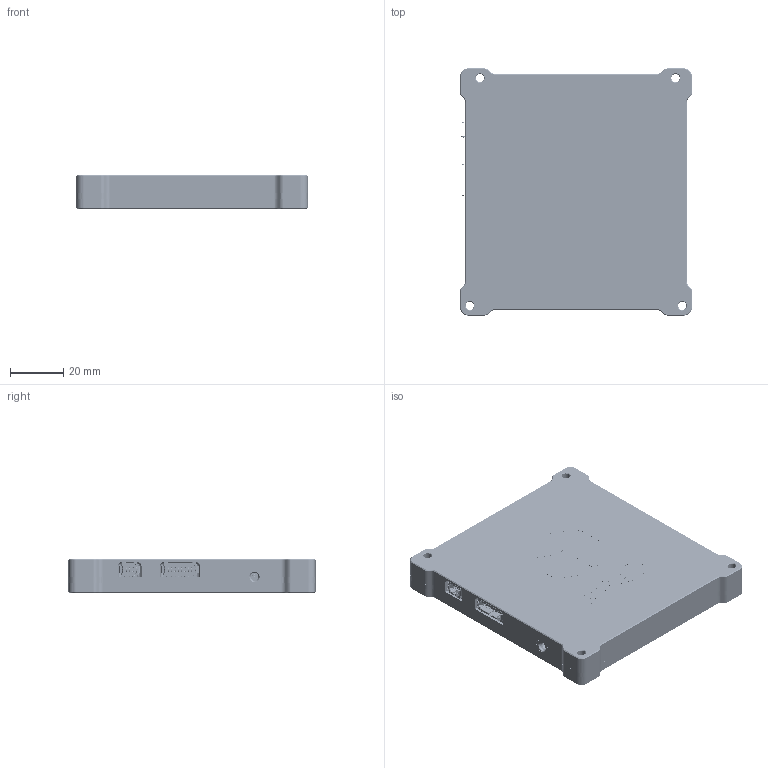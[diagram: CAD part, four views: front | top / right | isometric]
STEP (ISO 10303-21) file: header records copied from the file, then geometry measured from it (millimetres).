
FILE_DESCRIPTION (( 'STEP AP214' ), '1' );
FILE_NAME ('SatlabPolarisv1.0.STEP', '2017-11-23T15:25:19', ( '' ), ( '' ), 'SwSTEP 2.0', 'SolidWorks 2017', '' );
FILE_SCHEMA (( 'AUTOMOTIVE_DESIGN' ));
Length unit declared in the file: millimetre
Products named in the file (24): G125-1060005_BENT_2; M2screw; SatlabPolarisv1.0; Shield_bottom; g125-mh11605l3_asm; G125-430_LATCH; P1; G125-1060005_BENT; G125-431_LATCH; Board20; G125-418_2; G125-1070005_BENT_2; G125-430_LATCH_2; beta-v100; P2; shield_base_3; g125-mh10605l3_asm; RF; G125-3070696; G125-1070005_BENT; G125-431_LATCH_2; G125-3071696; G125-418; SMP-MSFD-PCE-1
Assembly tree (58 placements, depth 5):
  SatlabPolarisv1.0
    shield_base_3
    Shield_bottom
    M2screw  x16
    beta-v100
      Board20
      P2
        g125-mh10605l3_asm
          G125-3070696
          G125-418  x2
          G125-1060005_BENT  x3
          G125-1070005_BENT  x3
          G125-430_LATCH
          G125-431_LATCH
      RF
        SMP-MSFD-PCE-1
      P1
        g125-mh11605l3_asm
          G125-3071696
          G125-418_2  x2
          G125-1060005_BENT_2  x8
          G125-1070005_BENT_2  x8
          G125-430_LATCH_2
          G125-431_LATCH_2
Bounding box: 87.22 x 93.02 x 12.5 mm (x, y, z)
Volume: 62371.5 mm3; surface area: 58518.1 mm2
Topology: 51 solids, 57 shells, 6863 faces, 16990 edges, 10184 vertices
Faces by surface type: bspline 2707, cylinder 1663, plane 1419, torus 708, cone 360, sphere 6
Entity records: 143519 total; most frequent: CARTESIAN_POINT 45986, ORIENTED_EDGE 18530, DIRECTION 16330, EDGE_CURVE 9275, VERTEX_POINT 5771, AXIS2_PLACEMENT_3D 5729, VECTOR 4872, LINE 4872
